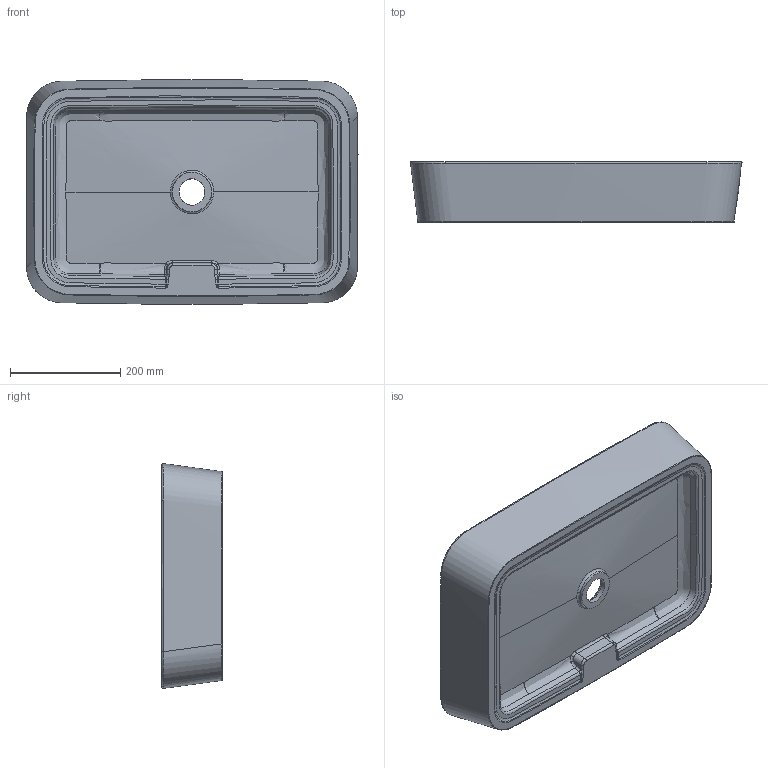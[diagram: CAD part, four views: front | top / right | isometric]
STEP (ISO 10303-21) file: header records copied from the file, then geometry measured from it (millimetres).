
FILE_DESCRIPTION (( 'STEP AP203' ), '1' );
FILE_NAME ('LP060.STEP', '2021-07-14T07:37:58', ( '' ), ( '' ), 'SwSTEP 2.0', 'SolidWorks 2020', '' );
FILE_SCHEMA (( 'CONFIG_CONTROL_DESIGN' ));
Products named in the file (1): LP060
Bounding box: 601.8 x 109.55 x 407.46 mm (x, y, z)
Volume: 6015056.6 mm3; surface area: 769689.3 mm2
Topology: 1 solids, 1 shells, 100 faces, 275 edges, 172 vertices
Faces by surface type: bspline 84, cylinder 9, plane 7
Entity records: 45467 total; most frequent: CARTESIAN_POINT 43539, ORIENTED_EDGE 538, EDGE_CURVE 269, B_SPLINE_CURVE_WITH_KNOTS 191, VERTEX_POINT 172, DIRECTION 162, EDGE_LOOP 103, ADVANCED_FACE 100
